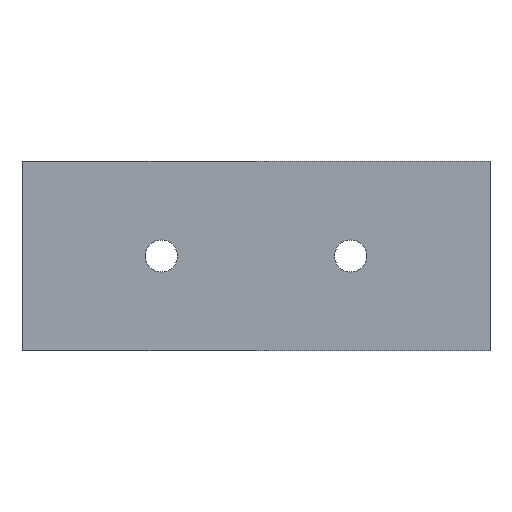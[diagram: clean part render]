
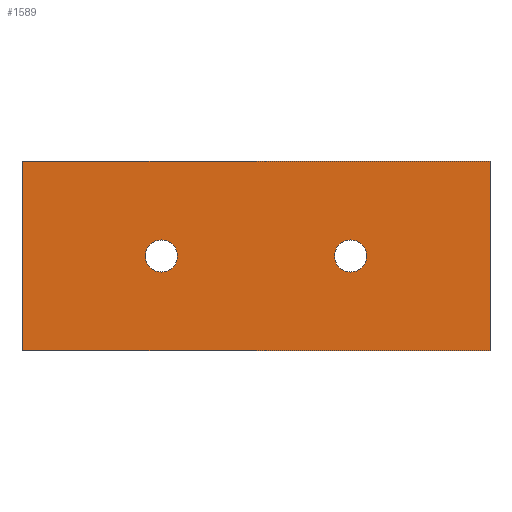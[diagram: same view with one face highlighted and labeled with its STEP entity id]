
A CAD part, top view. The second image highlights one B-rep face of the part: STEP entity #1589.
In plain terms, the highlighted planar face has unit normal (0, 0, 1).
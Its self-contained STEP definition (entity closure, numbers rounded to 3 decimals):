
#24 = VERTEX_POINT('',#25);
#25 = CARTESIAN_POINT('',(-36.,-54.,-40.));
#32 = PLANE('',#33);
#33 = AXIS2_PLACEMENT_3D('',#34,#35,#36);
#34 = CARTESIAN_POINT('',(-36.,-54.,-44.));
#35 = DIRECTION('',(1.,0.,0.));
#36 = DIRECTION('',(0.,0.,1.));
#44 = PLANE('',#45);
#45 = AXIS2_PLACEMENT_3D('',#46,#47,#48);
#46 = CARTESIAN_POINT('',(-36.,-54.,-44.));
#47 = DIRECTION('',(0.,1.,0.));
#48 = DIRECTION('',(0.,0.,1.));
#113 = VERTEX_POINT('',#114);
#114 = CARTESIAN_POINT('',(-36.,-34.,-40.));
#128 = PLANE('',#129);
#129 = AXIS2_PLACEMENT_3D('',#130,#131,#132);
#130 = CARTESIAN_POINT('',(-36.,-34.,-44.));
#131 = DIRECTION('',(0.,1.,0.));
#132 = DIRECTION('',(0.,0.,1.));
#140 = EDGE_CURVE('',#24,#113,#141,.T.);
#141 = SURFACE_CURVE('',#142,(#146,#153),.PCURVE_S1.);
#142 = LINE('',#143,#144);
#143 = CARTESIAN_POINT('',(-36.,-54.,-40.));
#144 = VECTOR('',#145,1.);
#145 = DIRECTION('',(0.,1.,0.));
#146 = PCURVE('',#32,#147);
#147 = DEFINITIONAL_REPRESENTATION('',(#148),#152);
#148 = LINE('',#149,#150);
#149 = CARTESIAN_POINT('',(4.,0.));
#150 = VECTOR('',#151,1.);
#151 = DIRECTION('',(0.,-1.));
#152 = ( GEOMETRIC_REPRESENTATION_CONTEXT(2) 
PARAMETRIC_REPRESENTATION_CONTEXT() REPRESENTATION_CONTEXT('2D SPACE',''
  ) );
#153 = PCURVE('',#154,#159);
#154 = PLANE('',#155);
#155 = AXIS2_PLACEMENT_3D('',#156,#157,#158);
#156 = CARTESIAN_POINT('',(-36.,-54.,-40.));
#157 = DIRECTION('',(0.,0.,1.));
#158 = DIRECTION('',(1.,0.,0.));
#159 = DEFINITIONAL_REPRESENTATION('',(#160),#164);
#160 = LINE('',#161,#162);
#161 = CARTESIAN_POINT('',(0.,0.));
#162 = VECTOR('',#163,1.);
#163 = DIRECTION('',(0.,1.));
#164 = ( GEOMETRIC_REPRESENTATION_CONTEXT(2) 
PARAMETRIC_REPRESENTATION_CONTEXT() REPRESENTATION_CONTEXT('2D SPACE',''
  ) );
#763 = EDGE_CURVE('',#24,#764,#766,.T.);
#764 = VERTEX_POINT('',#765);
#765 = CARTESIAN_POINT('',(13.5,-54.,-40.));
#766 = SURFACE_CURVE('',#767,(#771,#778),.PCURVE_S1.);
#767 = LINE('',#768,#769);
#768 = CARTESIAN_POINT('',(-36.,-54.,-40.));
#769 = VECTOR('',#770,1.);
#770 = DIRECTION('',(1.,0.,0.));
#771 = PCURVE('',#44,#772);
#772 = DEFINITIONAL_REPRESENTATION('',(#773),#777);
#773 = LINE('',#774,#775);
#774 = CARTESIAN_POINT('',(4.,0.));
#775 = VECTOR('',#776,1.);
#776 = DIRECTION('',(0.,1.));
#777 = ( GEOMETRIC_REPRESENTATION_CONTEXT(2) 
PARAMETRIC_REPRESENTATION_CONTEXT() REPRESENTATION_CONTEXT('2D SPACE',''
  ) );
#778 = PCURVE('',#154,#779);
#779 = DEFINITIONAL_REPRESENTATION('',(#780),#784);
#780 = LINE('',#781,#782);
#781 = CARTESIAN_POINT('',(0.,0.));
#782 = VECTOR('',#783,1.);
#783 = DIRECTION('',(1.,0.));
#784 = ( GEOMETRIC_REPRESENTATION_CONTEXT(2) 
PARAMETRIC_REPRESENTATION_CONTEXT() REPRESENTATION_CONTEXT('2D SPACE',''
  ) );
#802 = PLANE('',#803);
#803 = AXIS2_PLACEMENT_3D('',#804,#805,#806);
#804 = CARTESIAN_POINT('',(13.5,-54.,-44.));
#805 = DIRECTION('',(1.,0.,0.));
#806 = DIRECTION('',(0.,0.,1.));
#1068 = EDGE_CURVE('',#113,#1069,#1071,.T.);
#1069 = VERTEX_POINT('',#1070);
#1070 = CARTESIAN_POINT('',(13.5,-34.,-40.));
#1071 = SURFACE_CURVE('',#1072,(#1076,#1083),.PCURVE_S1.);
#1072 = LINE('',#1073,#1074);
#1073 = CARTESIAN_POINT('',(-36.,-34.,-40.));
#1074 = VECTOR('',#1075,1.);
#1075 = DIRECTION('',(1.,0.,0.));
#1076 = PCURVE('',#128,#1077);
#1077 = DEFINITIONAL_REPRESENTATION('',(#1078),#1082);
#1078 = LINE('',#1079,#1080);
#1079 = CARTESIAN_POINT('',(4.,0.));
#1080 = VECTOR('',#1081,1.);
#1081 = DIRECTION('',(0.,1.));
#1082 = ( GEOMETRIC_REPRESENTATION_CONTEXT(2) 
PARAMETRIC_REPRESENTATION_CONTEXT() REPRESENTATION_CONTEXT('2D SPACE',''
  ) );
#1083 = PCURVE('',#154,#1084);
#1084 = DEFINITIONAL_REPRESENTATION('',(#1085),#1089);
#1085 = LINE('',#1086,#1087);
#1086 = CARTESIAN_POINT('',(0.,20.));
#1087 = VECTOR('',#1088,1.);
#1088 = DIRECTION('',(1.,0.));
#1089 = ( GEOMETRIC_REPRESENTATION_CONTEXT(2) 
PARAMETRIC_REPRESENTATION_CONTEXT() REPRESENTATION_CONTEXT('2D SPACE',''
  ) );
#1589 = ADVANCED_FACE('',(#1590,#1616,#1651),#154,.T.);
#1590 = FACE_BOUND('',#1591,.T.);
#1591 = EDGE_LOOP('',(#1592,#1593,#1594,#1615));
#1592 = ORIENTED_EDGE('',*,*,#140,.F.);
#1593 = ORIENTED_EDGE('',*,*,#763,.T.);
#1594 = ORIENTED_EDGE('',*,*,#1595,.T.);
#1595 = EDGE_CURVE('',#764,#1069,#1596,.T.);
#1596 = SURFACE_CURVE('',#1597,(#1601,#1608),.PCURVE_S1.);
#1597 = LINE('',#1598,#1599);
#1598 = CARTESIAN_POINT('',(13.5,-54.,-40.));
#1599 = VECTOR('',#1600,1.);
#1600 = DIRECTION('',(0.,1.,0.));
#1601 = PCURVE('',#154,#1602);
#1602 = DEFINITIONAL_REPRESENTATION('',(#1603),#1607);
#1603 = LINE('',#1604,#1605);
#1604 = CARTESIAN_POINT('',(49.5,0.));
#1605 = VECTOR('',#1606,1.);
#1606 = DIRECTION('',(0.,1.));
#1607 = ( GEOMETRIC_REPRESENTATION_CONTEXT(2) 
PARAMETRIC_REPRESENTATION_CONTEXT() REPRESENTATION_CONTEXT('2D SPACE',''
  ) );
#1608 = PCURVE('',#802,#1609);
#1609 = DEFINITIONAL_REPRESENTATION('',(#1610),#1614);
#1610 = LINE('',#1611,#1612);
#1611 = CARTESIAN_POINT('',(4.,0.));
#1612 = VECTOR('',#1613,1.);
#1613 = DIRECTION('',(0.,-1.));
#1614 = ( GEOMETRIC_REPRESENTATION_CONTEXT(2) 
PARAMETRIC_REPRESENTATION_CONTEXT() REPRESENTATION_CONTEXT('2D SPACE',''
  ) );
#1615 = ORIENTED_EDGE('',*,*,#1068,.F.);
#1616 = FACE_BOUND('',#1617,.T.);
#1617 = EDGE_LOOP('',(#1618));
#1618 = ORIENTED_EDGE('',*,*,#1619,.T.);
#1619 = EDGE_CURVE('',#1620,#1620,#1622,.T.);
#1620 = VERTEX_POINT('',#1621);
#1621 = CARTESIAN_POINT('',(-21.25,-42.3,-40.));
#1622 = SURFACE_CURVE('',#1623,(#1628,#1639),.PCURVE_S1.);
#1623 = CIRCLE('',#1624,1.7);
#1624 = AXIS2_PLACEMENT_3D('',#1625,#1626,#1627);
#1625 = CARTESIAN_POINT('',(-21.25,-44.,-40.));
#1626 = DIRECTION('',(-0.,0.,-1.));
#1627 = DIRECTION('',(0.,1.,0.));
#1628 = PCURVE('',#154,#1629);
#1629 = DEFINITIONAL_REPRESENTATION('',(#1630),#1638);
#1630 = ( BOUNDED_CURVE() B_SPLINE_CURVE(2,(#1631,#1632,#1633,#1634,
#1635,#1636,#1637),.UNSPECIFIED.,.T.,.F.) B_SPLINE_CURVE_WITH_KNOTS((1,2
    ,2,2,2,1),(-2.094,0.,2.094,4.189,
6.283,8.378),.UNSPECIFIED.) CURVE() 
GEOMETRIC_REPRESENTATION_ITEM() RATIONAL_B_SPLINE_CURVE((1.,0.5,1.,0.5,
1.,0.5,1.)) REPRESENTATION_ITEM('') );
#1631 = CARTESIAN_POINT('',(14.75,11.7));
#1632 = CARTESIAN_POINT('',(17.694,11.7));
#1633 = CARTESIAN_POINT('',(16.222,9.15));
#1634 = CARTESIAN_POINT('',(14.75,6.6));
#1635 = CARTESIAN_POINT('',(13.278,9.15));
#1636 = CARTESIAN_POINT('',(11.806,11.7));
#1637 = CARTESIAN_POINT('',(14.75,11.7));
#1638 = ( GEOMETRIC_REPRESENTATION_CONTEXT(2) 
PARAMETRIC_REPRESENTATION_CONTEXT() REPRESENTATION_CONTEXT('2D SPACE',''
  ) );
#1639 = PCURVE('',#1640,#1645);
#1640 = CYLINDRICAL_SURFACE('',#1641,1.7);
#1641 = AXIS2_PLACEMENT_3D('',#1642,#1643,#1644);
#1642 = CARTESIAN_POINT('',(-21.25,-44.,-45.));
#1643 = DIRECTION('',(-0.,0.,-1.));
#1644 = DIRECTION('',(0.,1.,0.));
#1645 = DEFINITIONAL_REPRESENTATION('',(#1646),#1650);
#1646 = LINE('',#1647,#1648);
#1647 = CARTESIAN_POINT('',(-6.283,-5.));
#1648 = VECTOR('',#1649,1.);
#1649 = DIRECTION('',(1.,-0.));
#1650 = ( GEOMETRIC_REPRESENTATION_CONTEXT(2) 
PARAMETRIC_REPRESENTATION_CONTEXT() REPRESENTATION_CONTEXT('2D SPACE',''
  ) );
#1651 = FACE_BOUND('',#1652,.T.);
#1652 = EDGE_LOOP('',(#1653));
#1653 = ORIENTED_EDGE('',*,*,#1654,.T.);
#1654 = EDGE_CURVE('',#1655,#1655,#1657,.T.);
#1655 = VERTEX_POINT('',#1656);
#1656 = CARTESIAN_POINT('',(-1.25,-42.3,-40.));
#1657 = SURFACE_CURVE('',#1658,(#1663,#1674),.PCURVE_S1.);
#1658 = CIRCLE('',#1659,1.7);
#1659 = AXIS2_PLACEMENT_3D('',#1660,#1661,#1662);
#1660 = CARTESIAN_POINT('',(-1.25,-44.,-40.));
#1661 = DIRECTION('',(-0.,0.,-1.));
#1662 = DIRECTION('',(0.,1.,0.));
#1663 = PCURVE('',#154,#1664);
#1664 = DEFINITIONAL_REPRESENTATION('',(#1665),#1673);
#1665 = ( BOUNDED_CURVE() B_SPLINE_CURVE(2,(#1666,#1667,#1668,#1669,
#1670,#1671,#1672),.UNSPECIFIED.,.T.,.F.) B_SPLINE_CURVE_WITH_KNOTS((1,2
    ,2,2,2,1),(-2.094,0.,2.094,4.189,
6.283,8.378),.UNSPECIFIED.) CURVE() 
GEOMETRIC_REPRESENTATION_ITEM() RATIONAL_B_SPLINE_CURVE((1.,0.5,1.,0.5,
1.,0.5,1.)) REPRESENTATION_ITEM('') );
#1666 = CARTESIAN_POINT('',(34.75,11.7));
#1667 = CARTESIAN_POINT('',(37.694,11.7));
#1668 = CARTESIAN_POINT('',(36.222,9.15));
#1669 = CARTESIAN_POINT('',(34.75,6.6));
#1670 = CARTESIAN_POINT('',(33.278,9.15));
#1671 = CARTESIAN_POINT('',(31.806,11.7));
#1672 = CARTESIAN_POINT('',(34.75,11.7));
#1673 = ( GEOMETRIC_REPRESENTATION_CONTEXT(2) 
PARAMETRIC_REPRESENTATION_CONTEXT() REPRESENTATION_CONTEXT('2D SPACE',''
  ) );
#1674 = PCURVE('',#1675,#1680);
#1675 = CYLINDRICAL_SURFACE('',#1676,1.7);
#1676 = AXIS2_PLACEMENT_3D('',#1677,#1678,#1679);
#1677 = CARTESIAN_POINT('',(-1.25,-44.,-45.));
#1678 = DIRECTION('',(-0.,0.,-1.));
#1679 = DIRECTION('',(0.,1.,0.));
#1680 = DEFINITIONAL_REPRESENTATION('',(#1681),#1685);
#1681 = LINE('',#1682,#1683);
#1682 = CARTESIAN_POINT('',(-6.283,-5.));
#1683 = VECTOR('',#1684,1.);
#1684 = DIRECTION('',(1.,-0.));
#1685 = ( GEOMETRIC_REPRESENTATION_CONTEXT(2) 
PARAMETRIC_REPRESENTATION_CONTEXT() REPRESENTATION_CONTEXT('2D SPACE',''
  ) );
